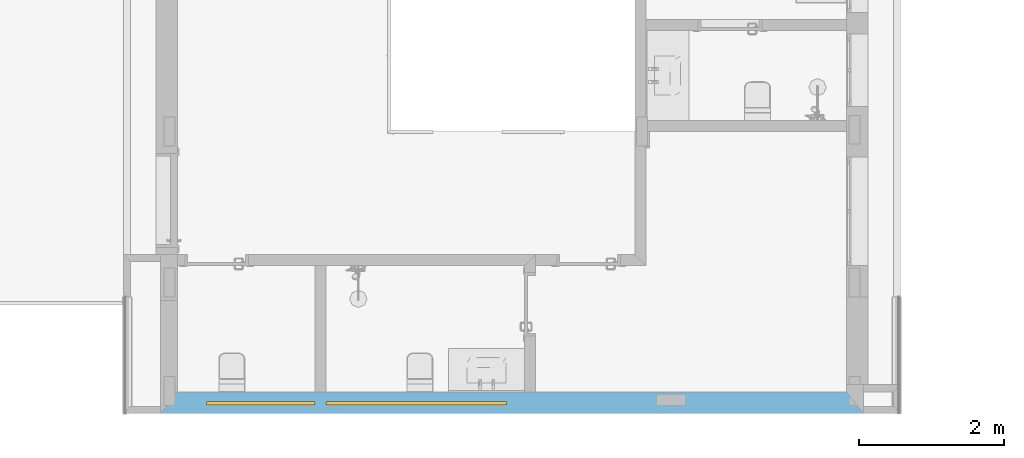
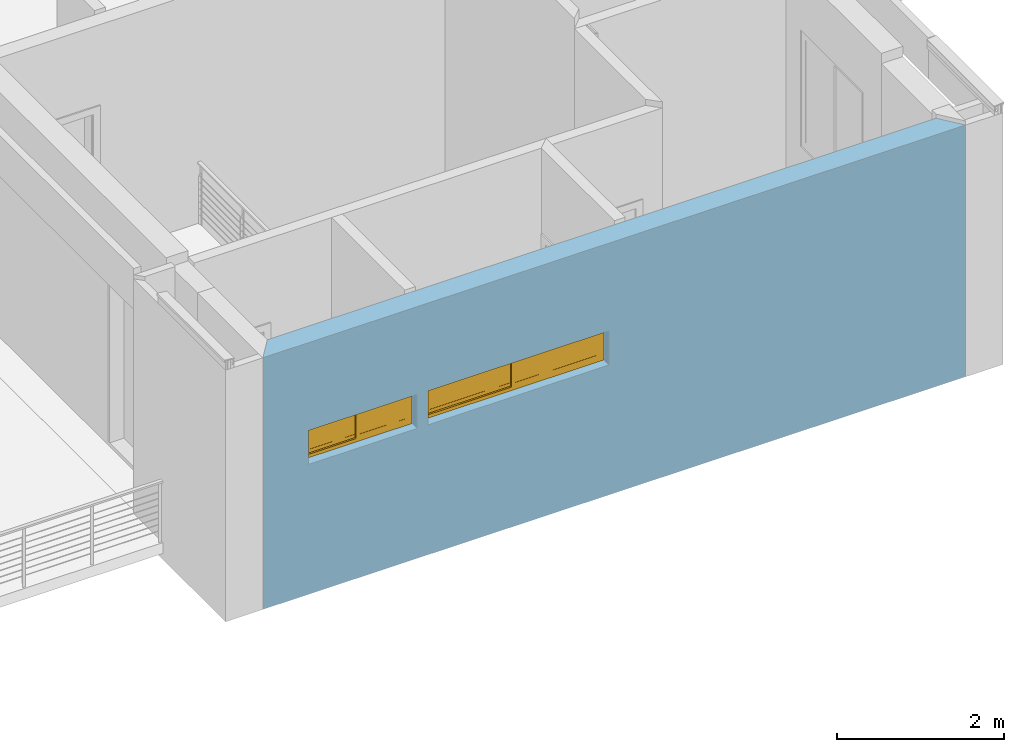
# One storey, part 10 of 26: 2 windows, 2 openings, plus 1 element that does not belong to this part.
"""IFC2X3 building model written with IfcOpenShell, lengths in millimetres."""

from ifc_helpers import new_model, entity, si_unit, converted_unit, money_unit, direction, frame, origin_with_axes, origin_2d_with_axis, place, context, subcontext, project, spatial, polyline, rectangle, outline, extrude, open_shell, faceted_brep, surface_model, material, material_list, layer, layer_set, layer_usage, type_object, element, fill, save


model = new_model("IFC2X3")

# Units and contexts
model_context = context("Model", 3, precision=1e-05, world=origin_with_axes(), true_north=direction((0.0, 1.0)))
body_context = subcontext(model_context, "Body", "Model", "MODEL_VIEW")
ifc_project = project(units=[si_unit("LENGTHUNIT", "METRE", prefix="MILLI"), si_unit("AREAUNIT", "SQUARE_METRE"), si_unit("VOLUMEUNIT", "CUBIC_METRE"), converted_unit("PLANEANGLEUNIT", "DEGREE", entity("IfcPlaneAngleMeasure", 0.0174532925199), si_unit("PLANEANGLEUNIT", "RADIAN"), dimensions=[0, 0, 0, 0, 0, 0, 0]), si_unit("SOLIDANGLEUNIT", "STERADIAN"), money_unit("USD"), converted_unit("TIMEUNIT", "Year", entity("IfcTimeMeasure", 31556926.0), si_unit("TIMEUNIT", "SECOND"), dimensions=[0, 0, 0, 0, 0, 0, 0]), si_unit("MASSUNIT", "GRAM"), si_unit("THERMODYNAMICTEMPERATUREUNIT", "DEGREE_CELSIUS"), si_unit("LUMINOUSINTENSITYUNIT", "LUMEN")], contexts=[model_context])

# Site, building, storey
site_placement = place(None, origin_with_axes())
site = spatial("IfcSite", under=ifc_project, at=site_placement, Name="Grove Residential", CompositionType="ELEMENT")
building_placement = place(site_placement, origin_with_axes())
building = spatial("IfcBuilding", under=site, at=building_placement, Name="Building", CompositionType="ELEMENT")
storey_placement = place(building_placement, origin_with_axes())
storey = spatial("IfcBuildingStorey", under=building, at=storey_placement, Name="Ground Floor", CompositionType="ELEMENT", Elevation=0.0)

# Wall, openings, windows
ifc_material_1 = material(Name="External Render")
ifc_layer_1 = layer(ifc_material_1, 20.0, ventilated="UNKNOWN")
ifc_material_2 = material(Name="Cement Board")
ifc_layer_2 = layer(ifc_material_2, 10.0, ventilated="UNKNOWN")
ifc_material_3 = material(Name="Air Space")
ifc_layer_3 = layer(ifc_material_3, 35.0, ventilated="UNKNOWN")
ifc_material_4 = material(Name="Insulation - Plastic Soft")
ifc_layer_4 = layer(ifc_material_4, 50.0, ventilated="UNKNOWN")
ifc_material_5 = material(Name="Concrete Block")
ifc_layer_5 = layer(ifc_material_5, 150.0, ventilated="UNKNOWN")
ifc_material_6 = material(Name="Air Space - Fixing Zone")
ifc_layer_6 = layer(ifc_material_6, 10.0, ventilated="UNKNOWN")
ifc_material_7 = material(Name="Gypsum Plasterboard")
ifc_layer_7 = layer(ifc_material_7, 12.5, ventilated="UNKNOWN")
ifc_layer_8 = layer(ifc_material_7, 12.5, ventilated="UNKNOWN")
ifc_layer_set = layer_set([ifc_layer_1, ifc_layer_2, ifc_layer_3, ifc_layer_4, ifc_layer_5, ifc_layer_6, ifc_layer_7, ifc_layer_8], Name="EWF - 001")
ifc_layer_usage = layer_usage(ifc_layer_set, "AXIS2", "NEGATIVE", 115.0)
wall_type = type_object("IfcWallType", Name="EWF - 001 300", PredefinedType="NOTDEFINED")
wall_placement = place(storey_placement, frame((10185.0, -35.0, -300.0), z_axis=(0.0, 0.0, 1.0), x_axis=(-1.0, 0.0, 0.0)))
wall = element("IfcWallStandardCase", 1, at=wall_placement, inside=storey, type_object=wall_type, material=ifc_layer_usage, Name="SW - 003", context=body_context, shape_type="SweptSolid", body=[
    extrude(outline(polyline([(185.0, -185.0), (9435.00006333, -185.0), (9670.00006333, 115.0), (-50.0, 115.0), (185.0, -185.0)])), origin_with_axes(), (0.0, 0.0, 1.0), 3680.0),
])
opening_1_placement = place(wall_placement, frame((6135.0, 0.0, 1900.0), z_axis=(0.0, 0.0, 1.0), x_axis=(1.0, 0.0, 0.0)))
opening_1 = element("IfcOpeningElement", 2, at=opening_1_placement, cuts=wall, Name="W.09", context=body_context, shape_type="SweptSolid", body=[
    extrude(rectangle(XDim=2500.0, YDim=500.0, at=origin_2d_with_axis()), frame((0.0, -5.0, 250.0), z_axis=(0.0, -1.0, 0.0), x_axis=(1.0, 0.0, 0.0)), (0.0, 0.0, 1.0), 480.0),
    extrude(rectangle(XDim=2500.0, YDim=500.0, at=origin_2d_with_axis()), frame((0.0, -5.0, 250.0), z_axis=(0.0, 1.0, 0.0), x_axis=(1.0, 0.0, 0.0)), (0.0, 0.0, 1.0), 420.0),
])
opening_2_placement = place(wall_placement, frame((8285.0, 0.0, 1900.0), z_axis=(0.0, 0.0, 1.0), x_axis=(1.0, 0.0, 0.0)))
opening_2 = element("IfcOpeningElement", 3, at=opening_2_placement, cuts=wall, Name="W.07", context=body_context, shape_type="SweptSolid", body=[
    extrude(rectangle(XDim=1500.0, YDim=500.0, at=origin_2d_with_axis()), frame((0.0, -5.0, 250.0), z_axis=(0.0, -1.0, 0.0), x_axis=(1.0, 0.0, 0.0)), (0.0, 0.0, 1.0), 480.0),
    extrude(rectangle(XDim=1500.0, YDim=500.0, at=origin_2d_with_axis()), frame((0.0, -5.0, 250.0), z_axis=(0.0, 1.0, 0.0), x_axis=(1.0, 0.0, 0.0)), (0.0, 0.0, 1.0), 420.0),
])
ifc_material_8 = material(Name="Background")
ifc_material_9 = material(Name="Air Space")
ifc_material_10 = material(Name="Rigid Insulation")
ifc_material_11 = material(Name="Batt Insulation")
ifc_material_list = material_list([ifc_material_8, ifc_material_9, ifc_material_8, ifc_material_8, ifc_material_8, ifc_material_10, ifc_material_8, ifc_material_8, ifc_material_8, ifc_material_8, ifc_material_9, ifc_material_8, ifc_material_11])
window_style = type_object("IfcWindowStyle", Name="Window 21", ConstructionType="NOTDEFINED", OperationType="DOUBLE_PANEL_VERTICAL", ParameterTakesPrecedence=False, Sizeable=False)
window_1_placement = place(opening_1_placement, frame((1250.0, 0.0, 0.0), z_axis=(0.0, 0.0, 1.0), x_axis=(-1.0, 0.0, 0.0)))
window_1 = element("IfcWindow", 4, at=window_1_placement, inside=storey, type_object=window_style, material=ifc_material_list, Name="W.09", OverallHeight=500.0, OverallWidth=2500.0, context=body_context, shape_type="SurfaceModel", body=[
    faceted_brep([(2450.0, 5.0, 450.0), (2500.0, 5.0, 450.0), (2500.0, 55.0, 450.0), (2450.0, 55.0, 450.0), (2450.0, 5.0, 50.0), (2500.0, 5.0, 50.0), (2500.0, 55.0, 50.0), (2450.0, 55.0, 50.0)], [[[0, 1, 2, 3]], [[0, 4, 5, 1]], [[1, 5, 6, 2]], [[3, 2, 6, 7]], [[4, 0, 3, 7]], [[5, 4, 7, 6]]]),
    faceted_brep([(50.0, 5.0, 50.0), (0.0, 5.0, 50.0), (0.0, 55.0, 50.0), (50.0, 55.0, 50.0), (50.0, 5.0, 450.0), (0.0, 5.0, 450.0), (0.0, 55.0, 450.0), (50.0, 55.0, 450.0)], [[[0, 1, 2, 3]], [[0, 4, 5, 1]], [[1, 5, 6, 2]], [[3, 2, 6, 7]], [[4, 0, 3, 7]], [[5, 4, 7, 6]]]),
    faceted_brep([(2450.0, 5.0, 50.0), (2500.0, 5.0, 50.0), (2500.0, 55.0, 50.0), (2450.0, 55.0, 50.0), (50.0, 5.0, 50.0), (0.0, 5.0, 50.0), (0.0, 5.0, 0.0), (2500.0, 5.0, 0.0), (2500.0, 55.0, 0.0), (0.0, 55.0, 0.0), (0.0, 55.0, 50.0), (50.0, 55.0, 50.0)], [[[0, 1, 2, 3]], [[0, 4, 5, 6, 7, 1]], [[1, 7, 8, 2]], [[3, 2, 8, 9, 10, 11]], [[4, 0, 3, 11]], [[5, 4, 11, 10]], [[6, 5, 10, 9]], [[7, 6, 9, 8]]]),
    faceted_brep([(50.0, 5.0, 450.0), (0.0, 5.0, 450.0), (0.0, 55.0, 450.0), (50.0, 55.0, 450.0), (2450.0, 5.0, 450.0), (2500.0, 5.0, 450.0), (2500.0, 5.0, 500.0), (0.0, 5.0, 500.0), (0.0, 55.0, 500.0), (2500.0, 55.0, 500.0), (2500.0, 55.0, 450.0), (2450.0, 55.0, 450.0)], [[[0, 1, 2, 3]], [[0, 4, 5, 6, 7, 1]], [[1, 7, 8, 2]], [[3, 2, 8, 9, 10, 11]], [[4, 0, 3, 11]], [[5, 4, 11, 10]], [[6, 5, 10, 9]], [[7, 6, 9, 8]]]),
    faceted_brep([(1225.0, 30.0, 400.0), (1275.0, 30.0, 400.0), (1275.0, 55.0, 400.0), (1225.0, 55.0, 400.0), (1225.0, 30.0, 100.0), (1275.0, 30.0, 100.0), (1275.0, 55.0, 100.0), (1225.0, 55.0, 100.0)], [[[0, 1, 2, 3]], [[0, 4, 5, 1]], [[1, 5, 6, 2]], [[3, 2, 6, 7]], [[4, 0, 3, 7]], [[5, 4, 7, 6]]]),
    faceted_brep([(100.0, 30.0, 100.0), (50.0, 30.0, 100.0), (50.0, 55.0, 100.0), (100.0, 55.0, 100.0), (100.0, 30.0, 400.0), (50.0, 30.0, 400.0), (50.0, 55.0, 400.0), (100.0, 55.0, 400.0)], [[[0, 1, 2, 3]], [[0, 4, 5, 1]], [[1, 5, 6, 2]], [[3, 2, 6, 7]], [[4, 0, 3, 7]], [[5, 4, 7, 6]]]),
    faceted_brep([(50.0, 30.0, 50.0), (50.0, 30.0, 100.0), (50.0, 55.0, 100.0), (50.0, 55.0, 50.0), (1275.0, 30.0, 50.0), (1275.0, 30.0, 100.0), (1225.0, 30.0, 100.0), (100.0, 30.0, 100.0), (100.0, 55.0, 100.0), (1225.0, 55.0, 100.0), (1275.0, 55.0, 100.0), (1275.0, 55.0, 50.0)], [[[0, 1, 2, 3]], [[0, 4, 5, 6, 7, 1]], [[1, 7, 8, 2]], [[3, 2, 8, 9, 10, 11]], [[4, 0, 3, 11]], [[5, 4, 11, 10]], [[6, 5, 10, 9]], [[7, 6, 9, 8]]]),
    faceted_brep([(1275.0, 30.0, 450.0), (1275.0, 30.0, 400.0), (1275.0, 55.0, 400.0), (1275.0, 55.0, 450.0), (50.0, 30.0, 450.0), (50.0, 30.0, 400.0), (100.0, 30.0, 400.0), (1225.0, 30.0, 400.0), (1225.0, 55.0, 400.0), (100.0, 55.0, 400.0), (50.0, 55.0, 400.0), (50.0, 55.0, 450.0)], [[[0, 1, 2, 3]], [[0, 4, 5, 6, 7, 1]], [[1, 7, 8, 2]], [[3, 2, 8, 9, 10, 11]], [[4, 0, 3, 11]], [[5, 4, 11, 10]], [[6, 5, 10, 9]], [[7, 6, 9, 8]]]),
    surface_model("IfcShellBasedSurfaceModel", [(1225.0, 32.5, 100.0), (1225.0, 32.5, 400.0), (100.0, 32.5, 400.0), (100.0, 32.5, 100.0)], [open_shell([[[0, 1, 2, 3]]])]),
    surface_model("IfcShellBasedSurfaceModel", [(1225.0, 52.5, 100.0), (100.0, 52.5, 100.0), (100.0, 52.5, 400.0), (1225.0, 52.5, 400.0)], [open_shell([[[0, 1, 2, 3]]])]),
    faceted_brep([(2400.0, 5.0, 400.0), (2450.0, 5.0, 400.0), (2450.0, 30.0, 400.0), (2400.0, 30.0, 400.0), (2400.0, 5.0, 100.0), (2450.0, 5.0, 100.0), (2450.0, 30.0, 100.0), (2400.0, 30.0, 100.0)], [[[0, 1, 2, 3]], [[0, 4, 5, 1]], [[1, 5, 6, 2]], [[3, 2, 6, 7]], [[4, 0, 3, 7]], [[5, 4, 7, 6]]]),
    faceted_brep([(1275.0, 5.0, 100.0), (1225.0, 5.0, 100.0), (1225.0, 30.0, 100.0), (1275.0, 30.0, 100.0), (1275.0, 5.0, 400.0), (1225.0, 5.0, 400.0), (1225.0, 30.0, 400.0), (1275.0, 30.0, 400.0)], [[[0, 1, 2, 3]], [[0, 4, 5, 1]], [[1, 5, 6, 2]], [[3, 2, 6, 7]], [[4, 0, 3, 7]], [[5, 4, 7, 6]]]),
    faceted_brep([(1225.0, 5.0, 50.0), (1225.0, 5.0, 100.0), (1225.0, 30.0, 100.0), (1225.0, 30.0, 50.0), (2450.0, 5.0, 50.0), (2450.0, 5.0, 100.0), (2400.0, 5.0, 100.0), (1275.0, 5.0, 100.0), (1275.0, 30.0, 100.0), (2400.0, 30.0, 100.0), (2450.0, 30.0, 100.0), (2450.0, 30.0, 50.0)], [[[0, 1, 2, 3]], [[0, 4, 5, 6, 7, 1]], [[1, 7, 8, 2]], [[3, 2, 8, 9, 10, 11]], [[4, 0, 3, 11]], [[5, 4, 11, 10]], [[6, 5, 10, 9]], [[7, 6, 9, 8]]]),
    faceted_brep([(2450.0, 5.0, 450.0), (2450.0, 5.0, 400.0), (2450.0, 30.0, 400.0), (2450.0, 30.0, 450.0), (1225.0, 5.0, 450.0), (1225.0, 5.0, 400.0), (1275.0, 5.0, 400.0), (2400.0, 5.0, 400.0), (2400.0, 30.0, 400.0), (1275.0, 30.0, 400.0), (1225.0, 30.0, 400.0), (1225.0, 30.0, 450.0)], [[[0, 1, 2, 3]], [[0, 4, 5, 6, 7, 1]], [[1, 7, 8, 2]], [[3, 2, 8, 9, 10, 11]], [[4, 0, 3, 11]], [[5, 4, 11, 10]], [[6, 5, 10, 9]], [[7, 6, 9, 8]]]),
    surface_model("IfcShellBasedSurfaceModel", [(2400.0, 7.5, 100.0), (2400.0, 7.5, 400.0), (1275.0, 7.5, 400.0), (1275.0, 7.5, 100.0)], [open_shell([[[0, 1, 2, 3]]])]),
    surface_model("IfcShellBasedSurfaceModel", [(2400.0, 27.5, 100.0), (1275.0, 27.5, 100.0), (1275.0, 27.5, 400.0), (2400.0, 27.5, 400.0)], [open_shell([[[0, 1, 2, 3]]])]),
])
fill(opening_1, window_1)
window_2_placement = place(opening_2_placement, frame((750.0, 0.0, 0.0), z_axis=(0.0, 0.0, 1.0), x_axis=(-1.0, 0.0, 0.0)))
window_2 = element("IfcWindow", 5, at=window_2_placement, inside=storey, type_object=window_style, material=ifc_material_list, Name="W.07", OverallHeight=500.0, OverallWidth=1500.0, context=body_context, shape_type="SurfaceModel", body=[
    faceted_brep([(1450.0, 5.0, 450.0), (1500.0, 5.0, 450.0), (1500.0, 55.0, 450.0), (1450.0, 55.0, 450.0), (1450.0, 5.0, 50.0), (1500.0, 5.0, 50.0), (1500.0, 55.0, 50.0), (1450.0, 55.0, 50.0)], [[[0, 1, 2, 3]], [[0, 4, 5, 1]], [[1, 5, 6, 2]], [[3, 2, 6, 7]], [[4, 0, 3, 7]], [[5, 4, 7, 6]]]),
    faceted_brep([(50.0, 5.0, 50.0), (0.0, 5.0, 50.0), (0.0, 55.0, 50.0), (50.0, 55.0, 50.0), (50.0, 5.0, 450.0), (0.0, 5.0, 450.0), (0.0, 55.0, 450.0), (50.0, 55.0, 450.0)], [[[0, 1, 2, 3]], [[0, 4, 5, 1]], [[1, 5, 6, 2]], [[3, 2, 6, 7]], [[4, 0, 3, 7]], [[5, 4, 7, 6]]]),
    faceted_brep([(1450.0, 5.0, 50.0), (1500.0, 5.0, 50.0), (1500.0, 55.0, 50.0), (1450.0, 55.0, 50.0), (50.0, 5.0, 50.0), (0.0, 5.0, 50.0), (0.0, 5.0, 0.0), (1500.0, 5.0, 0.0), (1500.0, 55.0, 0.0), (0.0, 55.0, 0.0), (0.0, 55.0, 50.0), (50.0, 55.0, 50.0)], [[[0, 1, 2, 3]], [[0, 4, 5, 6, 7, 1]], [[1, 7, 8, 2]], [[3, 2, 8, 9, 10, 11]], [[4, 0, 3, 11]], [[5, 4, 11, 10]], [[6, 5, 10, 9]], [[7, 6, 9, 8]]]),
    faceted_brep([(50.0, 5.0, 450.0), (0.0, 5.0, 450.0), (0.0, 55.0, 450.0), (50.0, 55.0, 450.0), (1450.0, 5.0, 450.0), (1500.0, 5.0, 450.0), (1500.0, 5.0, 500.0), (0.0, 5.0, 500.0), (0.0, 55.0, 500.0), (1500.0, 55.0, 500.0), (1500.0, 55.0, 450.0), (1450.0, 55.0, 450.0)], [[[0, 1, 2, 3]], [[0, 4, 5, 6, 7, 1]], [[1, 7, 8, 2]], [[3, 2, 8, 9, 10, 11]], [[4, 0, 3, 11]], [[5, 4, 11, 10]], [[6, 5, 10, 9]], [[7, 6, 9, 8]]]),
    faceted_brep([(725.0, 30.0, 400.0), (775.0, 30.0, 400.0), (775.0, 55.0, 400.0), (725.0, 55.0, 400.0), (725.0, 30.0, 100.0), (775.0, 30.0, 100.0), (775.0, 55.0, 100.0), (725.0, 55.0, 100.0)], [[[0, 1, 2, 3]], [[0, 4, 5, 1]], [[1, 5, 6, 2]], [[3, 2, 6, 7]], [[4, 0, 3, 7]], [[5, 4, 7, 6]]]),
    faceted_brep([(100.0, 30.0, 100.0), (50.0, 30.0, 100.0), (50.0, 55.0, 100.0), (100.0, 55.0, 100.0), (100.0, 30.0, 400.0), (50.0, 30.0, 400.0), (50.0, 55.0, 400.0), (100.0, 55.0, 400.0)], [[[0, 1, 2, 3]], [[0, 4, 5, 1]], [[1, 5, 6, 2]], [[3, 2, 6, 7]], [[4, 0, 3, 7]], [[5, 4, 7, 6]]]),
    faceted_brep([(50.0, 30.0, 50.0), (50.0, 30.0, 100.0), (50.0, 55.0, 100.0), (50.0, 55.0, 50.0), (775.0, 30.0, 50.0), (775.0, 30.0, 100.0), (725.0, 30.0, 100.0), (100.0, 30.0, 100.0), (100.0, 55.0, 100.0), (725.0, 55.0, 100.0), (775.0, 55.0, 100.0), (775.0, 55.0, 50.0)], [[[0, 1, 2, 3]], [[0, 4, 5, 6, 7, 1]], [[1, 7, 8, 2]], [[3, 2, 8, 9, 10, 11]], [[4, 0, 3, 11]], [[5, 4, 11, 10]], [[6, 5, 10, 9]], [[7, 6, 9, 8]]]),
    faceted_brep([(775.0, 30.0, 450.0), (775.0, 30.0, 400.0), (775.0, 55.0, 400.0), (775.0, 55.0, 450.0), (50.0, 30.0, 450.0), (50.0, 30.0, 400.0), (100.0, 30.0, 400.0), (725.0, 30.0, 400.0), (725.0, 55.0, 400.0), (100.0, 55.0, 400.0), (50.0, 55.0, 400.0), (50.0, 55.0, 450.0)], [[[0, 1, 2, 3]], [[0, 4, 5, 6, 7, 1]], [[1, 7, 8, 2]], [[3, 2, 8, 9, 10, 11]], [[4, 0, 3, 11]], [[5, 4, 11, 10]], [[6, 5, 10, 9]], [[7, 6, 9, 8]]]),
    surface_model("IfcShellBasedSurfaceModel", [(725.0, 32.5, 100.0), (725.0, 32.5, 400.0), (100.0, 32.5, 400.0), (100.0, 32.5, 100.0)], [open_shell([[[0, 1, 2, 3]]])]),
    surface_model("IfcShellBasedSurfaceModel", [(725.0, 52.5, 100.0), (100.0, 52.5, 100.0), (100.0, 52.5, 400.0), (725.0, 52.5, 400.0)], [open_shell([[[0, 1, 2, 3]]])]),
    faceted_brep([(1400.0, 5.0, 400.0), (1450.0, 5.0, 400.0), (1450.0, 30.0, 400.0), (1400.0, 30.0, 400.0), (1400.0, 5.0, 100.0), (1450.0, 5.0, 100.0), (1450.0, 30.0, 100.0), (1400.0, 30.0, 100.0)], [[[0, 1, 2, 3]], [[0, 4, 5, 1]], [[1, 5, 6, 2]], [[3, 2, 6, 7]], [[4, 0, 3, 7]], [[5, 4, 7, 6]]]),
    faceted_brep([(775.0, 5.0, 100.0), (725.0, 5.0, 100.0), (725.0, 30.0, 100.0), (775.0, 30.0, 100.0), (775.0, 5.0, 400.0), (725.0, 5.0, 400.0), (725.0, 30.0, 400.0), (775.0, 30.0, 400.0)], [[[0, 1, 2, 3]], [[0, 4, 5, 1]], [[1, 5, 6, 2]], [[3, 2, 6, 7]], [[4, 0, 3, 7]], [[5, 4, 7, 6]]]),
    faceted_brep([(725.0, 5.0, 50.0), (725.0, 5.0, 100.0), (725.0, 30.0, 100.0), (725.0, 30.0, 50.0), (1450.0, 5.0, 50.0), (1450.0, 5.0, 100.0), (1400.0, 5.0, 100.0), (775.0, 5.0, 100.0), (775.0, 30.0, 100.0), (1400.0, 30.0, 100.0), (1450.0, 30.0, 100.0), (1450.0, 30.0, 50.0)], [[[0, 1, 2, 3]], [[0, 4, 5, 6, 7, 1]], [[1, 7, 8, 2]], [[3, 2, 8, 9, 10, 11]], [[4, 0, 3, 11]], [[5, 4, 11, 10]], [[6, 5, 10, 9]], [[7, 6, 9, 8]]]),
    faceted_brep([(1450.0, 5.0, 450.0), (1450.0, 5.0, 400.0), (1450.0, 30.0, 400.0), (1450.0, 30.0, 450.0), (725.0, 5.0, 450.0), (725.0, 5.0, 400.0), (775.0, 5.0, 400.0), (1400.0, 5.0, 400.0), (1400.0, 30.0, 400.0), (775.0, 30.0, 400.0), (725.0, 30.0, 400.0), (725.0, 30.0, 450.0)], [[[0, 1, 2, 3]], [[0, 4, 5, 6, 7, 1]], [[1, 7, 8, 2]], [[3, 2, 8, 9, 10, 11]], [[4, 0, 3, 11]], [[5, 4, 11, 10]], [[6, 5, 10, 9]], [[7, 6, 9, 8]]]),
    surface_model("IfcShellBasedSurfaceModel", [(1400.0, 7.5, 100.0), (1400.0, 7.5, 400.0), (775.0, 7.5, 400.0), (775.0, 7.5, 100.0)], [open_shell([[[0, 1, 2, 3]]])]),
    surface_model("IfcShellBasedSurfaceModel", [(1400.0, 27.5, 100.0), (775.0, 27.5, 100.0), (775.0, 27.5, 400.0), (1400.0, 27.5, 400.0)], [open_shell([[[0, 1, 2, 3]]])]),
])
fill(opening_2, window_2)

save(model, "model.ifc")
